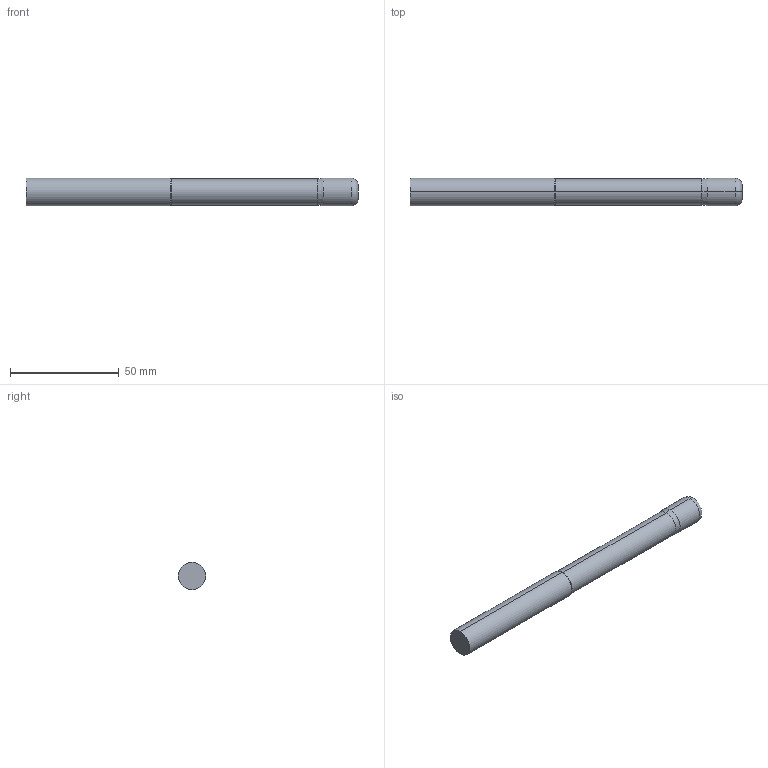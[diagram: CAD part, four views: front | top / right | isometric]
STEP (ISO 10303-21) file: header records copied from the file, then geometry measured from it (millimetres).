
FILE_DESCRIPTION (( 'STEP AP214' ), '1' );
FILE_NAME ('SSIRNL70500-120.STEP', '2025-05-30T14:41:42', ( '' ), ( '' ), 'SwSTEP 2.0', 'SolidWorks 2023', '' );
FILE_SCHEMA (( 'AUTOMOTIVE_DESIGN' ));
Length unit declared in the file: inch
Products named in the file (3): SSI7 Cut Only_SSIRNL70500-120; SSIRNL70500-120; SSI7 Shank Only_SSIRNL70500-120
Assembly tree (2 placements, depth 2):
  SSIRNL70500-120
    SSI7 Cut Only_SSIRNL70500-120
    SSI7 Shank Only_SSIRNL70500-120
Bounding box: 152.4 x 12.7 x 12.7 mm (x, y, z)
Volume: 18384.2 mm3; surface area: 6397.6 mm2
Topology: 2 solids, 2 shells, 16 faces, 28 edges, 16 vertices
Faces by surface type: cylinder 6, plane 4, cone 4, torus 2
Entity records: 484 total; most frequent: DIRECTION 88, CARTESIAN_POINT 65, ORIENTED_EDGE 56, AXIS2_PLACEMENT_3D 39, EDGE_CURVE 28, CIRCLE 18, VERTEX_POINT 16, EDGE_LOOP 16
